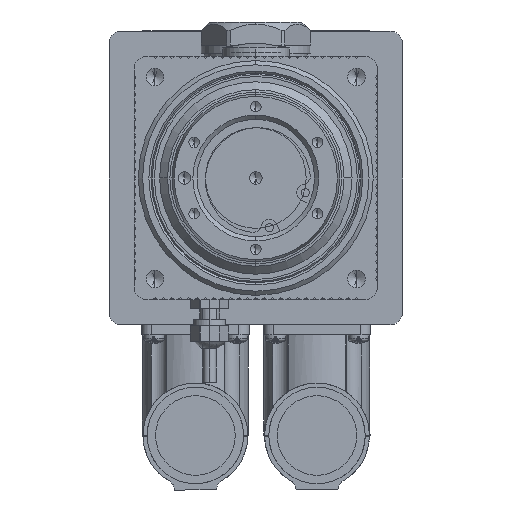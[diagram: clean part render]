
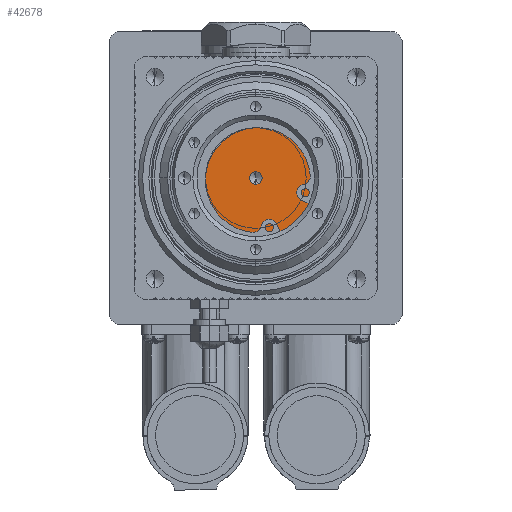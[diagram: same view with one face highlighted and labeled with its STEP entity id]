
A CAD part, front view. The second image highlights one B-rep face of the part: STEP entity #42678.
In plain terms, the highlighted planar face has unit normal (0, -1, 0).
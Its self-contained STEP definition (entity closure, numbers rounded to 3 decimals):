
#3906 = CARTESIAN_POINT ( 'NONE',  ( 0., -52., 0. ) ) ;
#6195 = AXIS2_PLACEMENT_3D ( 'NONE', #3906, #157471, #117683 ) ;
#7942 = ORIENTED_EDGE ( 'NONE', *, *, #86066, .F. ) ;
#9362 = AXIS2_PLACEMENT_3D ( 'NONE', #89657, #114579, #92928 ) ;
#12098 = CIRCLE ( 'NONE', #9362, 1.5 ) ;
#16053 = AXIS2_PLACEMENT_3D ( 'NONE', #112116, #49014, #38999 ) ;
#17767 = EDGE_CURVE ( 'NONE', #50764, #114167, #122174, .T. ) ;
#19487 = DIRECTION ( 'NONE',  ( 0., 0., 1. ) ) ;
#20568 = EDGE_CURVE ( 'NONE', #159899, #112435, #59216, .T. ) ;
#21961 = FACE_BOUND ( 'NONE', #46952, .T. ) ;
#25683 = CARTESIAN_POINT ( 'NONE',  ( 0., -52., 14. ) ) ;
#38999 = DIRECTION ( 'NONE',  ( 0., 0., 1. ) ) ;
#42678 = ADVANCED_FACE ( 'NONE', ( #46059, #21961 ), #110793, .F. ) ;
#43609 = CARTESIAN_POINT ( 'NONE',  ( 0., -52., 0. ) ) ;
#46059 = FACE_OUTER_BOUND ( 'NONE', #78782, .T. ) ;
#46952 = EDGE_LOOP ( 'NONE', ( #161033, #148503 ) ) ;
#49014 = DIRECTION ( 'NONE',  ( 0., 1., 0. ) ) ;
#50764 = VERTEX_POINT ( 'NONE', #118100 ) ;
#59216 = CIRCLE ( 'NONE', #6195, 1.5 ) ;
#75677 = CARTESIAN_POINT ( 'NONE',  ( 0., -52., 0. ) ) ;
#78008 = EDGE_CURVE ( 'NONE', #112435, #159899, #12098, .T. ) ;
#78782 = EDGE_LOOP ( 'NONE', ( #154925, #7942 ) ) ;
#80700 = AXIS2_PLACEMENT_3D ( 'NONE', #43609, #159786, #19487 ) ;
#86066 = EDGE_CURVE ( 'NONE', #114167, #50764, #98448, .T. ) ;
#88932 = DIRECTION ( 'NONE',  ( 0., 0., 1. ) ) ;
#89657 = CARTESIAN_POINT ( 'NONE',  ( 0., -52., 0. ) ) ;
#90523 = AXIS2_PLACEMENT_3D ( 'NONE', #75677, #152840, #88932 ) ;
#92928 = DIRECTION ( 'NONE',  ( 0., 0., 1. ) ) ;
#93224 = CARTESIAN_POINT ( 'NONE',  ( 0., -52., 1.5 ) ) ;
#93870 = CARTESIAN_POINT ( 'NONE',  ( 0., -52., -1.5 ) ) ;
#98448 = CIRCLE ( 'NONE', #90523, 14. ) ;
#110793 = PLANE ( 'NONE',  #80700 ) ;
#112116 = CARTESIAN_POINT ( 'NONE',  ( 0., -52., 0. ) ) ;
#112435 = VERTEX_POINT ( 'NONE', #93224 ) ;
#114167 = VERTEX_POINT ( 'NONE', #25683 ) ;
#114579 = DIRECTION ( 'NONE',  ( 0., 1., 0. ) ) ;
#117683 = DIRECTION ( 'NONE',  ( 0., 0., 1. ) ) ;
#118100 = CARTESIAN_POINT ( 'NONE',  ( 0., -52., -14. ) ) ;
#122174 = CIRCLE ( 'NONE', #16053, 14. ) ;
#148503 = ORIENTED_EDGE ( 'NONE', *, *, #78008, .T. ) ;
#152840 = DIRECTION ( 'NONE',  ( 0., 1., 0. ) ) ;
#154925 = ORIENTED_EDGE ( 'NONE', *, *, #17767, .F. ) ;
#157471 = DIRECTION ( 'NONE',  ( 0., 1., 0. ) ) ;
#159786 = DIRECTION ( 'NONE',  ( 0., 1., 0. ) ) ;
#159899 = VERTEX_POINT ( 'NONE', #93870 ) ;
#161033 = ORIENTED_EDGE ( 'NONE', *, *, #20568, .T. ) ;
